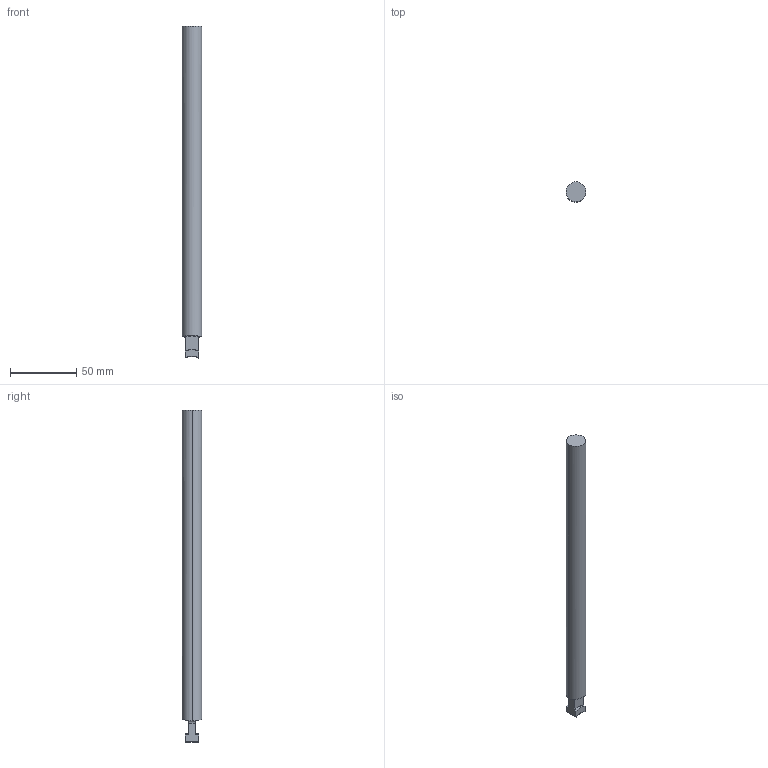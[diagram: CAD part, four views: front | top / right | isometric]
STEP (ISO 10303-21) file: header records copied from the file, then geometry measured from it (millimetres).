
FILE_DESCRIPTION (( 'STEP AP214' ), '1' );
FILE_NAME ('CBMM15DL250.STEP', '2011-08-03T19:26:48', ( '' ), ( '' ), 'SwSTEP 2.0', 'SolidWorks 2010', '' );
FILE_SCHEMA (( 'AUTOMOTIVE_DESIGN' ));
Length unit declared in the file: millimetre
Products named in the file (1): CBMM15DL250
Bounding box: 15 x 15 x 251.16 mm (x, y, z)
Volume: 42595.2 mm3; surface area: 12032.9 mm2
Topology: 1 solids, 1 shells, 32 faces, 83 edges, 53 vertices
Faces by surface type: cylinder 14, torus 9, plane 7, bspline 2
Entity records: 1843 total; most frequent: CARTESIAN_POINT 1051, ORIENTED_EDGE 166, DIRECTION 153, EDGE_CURVE 83, AXIS2_PLACEMENT_3D 65, VERTEX_POINT 53, CIRCLE 34, FACE_OUTER_BOUND 32
